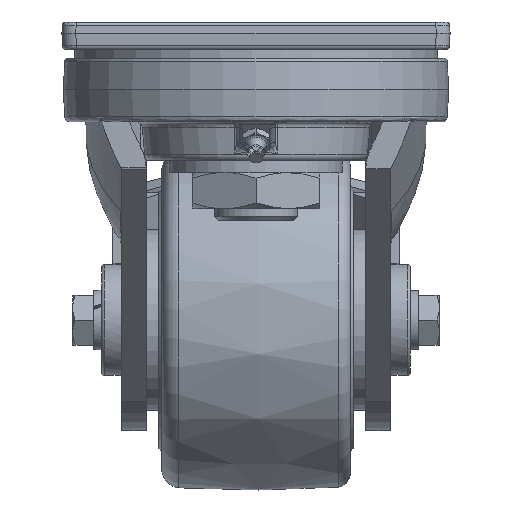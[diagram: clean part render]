
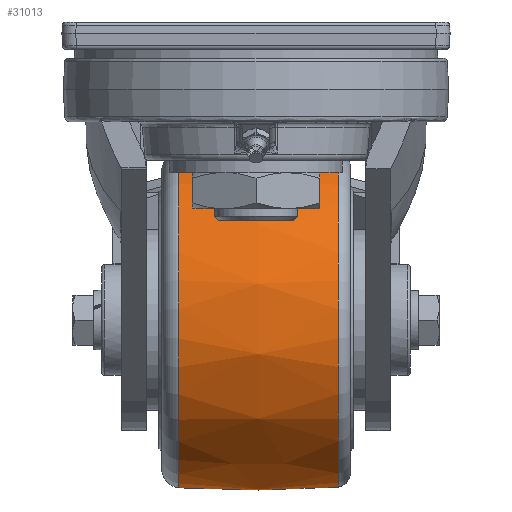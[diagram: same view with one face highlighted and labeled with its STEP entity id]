
A CAD part, left-side view. The second image highlights one B-rep face of the part: STEP entity #31013.
In plain terms, the highlighted free-form (B-spline) face has degree [2, 2] with [3, 9] control points.
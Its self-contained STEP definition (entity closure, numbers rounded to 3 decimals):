
#28=(
BOUNDED_SURFACE()
B_SPLINE_SURFACE(2,2,((#55463,#55464,#55465,#55466,#55467,#55468,#55469,
#55470,#55471),(#55472,#55473,#55474,#55475,#55476,#55477,#55478,#55479,
#55480),(#55481,#55482,#55483,#55484,#55485,#55486,#55487,#55488,#55489)),
 .UNSPECIFIED.,.F.,.T.,.F.)
B_SPLINE_SURFACE_WITH_KNOTS((3,3),(3,2,2,2,3),(-0.142,0.133),
(-3.142,-1.571,0.,1.571,3.142),
 .UNSPECIFIED.)
GEOMETRIC_REPRESENTATION_ITEM()
RATIONAL_B_SPLINE_SURFACE(((1.,0.707,1.,0.707,1.,
0.707,1.,0.707,1.),(0.991,0.7,
0.991,0.7,0.991,0.7,
0.991,0.7,0.991),(1.,0.707,
1.,0.707,1.,0.707,1.,0.707,1.)))
REPRESENTATION_ITEM('')
SURFACE()
);
#8963=FACE_OUTER_BOUND('',#10788,.T.);
#10788=EDGE_LOOP('',(#26351,#26352,#26353,#26354,#26355,#26356));
#11883=CIRCLE('',#32959,60.634);
#11884=CIRCLE('',#32960,60.634);
#11885=CIRCLE('',#32961,210.);
#11886=CIRCLE('',#32962,60.388);
#11887=CIRCLE('',#32963,60.388);
#14166=VERTEX_POINT('',#55458);
#14167=VERTEX_POINT('',#55460);
#14168=VERTEX_POINT('',#55490);
#14169=VERTEX_POINT('',#55492);
#18390=EDGE_CURVE('',#14166,#14167,#11883,.T.);
#18391=EDGE_CURVE('',#14167,#14166,#11884,.T.);
#18392=EDGE_CURVE('',#14166,#14168,#11885,.T.);
#18393=EDGE_CURVE('',#14168,#14169,#11886,.T.);
#18394=EDGE_CURVE('',#14169,#14168,#11887,.T.);
#26351=ORIENTED_EDGE('',*,*,#18391,.F.);
#26352=ORIENTED_EDGE('',*,*,#18390,.F.);
#26353=ORIENTED_EDGE('',*,*,#18392,.T.);
#26354=ORIENTED_EDGE('',*,*,#18393,.T.);
#26355=ORIENTED_EDGE('',*,*,#18394,.T.);
#26356=ORIENTED_EDGE('',*,*,#18392,.F.);
#31013=ADVANCED_FACE('',(#8963),#28,.F.);
#32959=AXIS2_PLACEMENT_3D('',#55461,#38065,#38066);
#32960=AXIS2_PLACEMENT_3D('',#55462,#38067,#38068);
#32961=AXIS2_PLACEMENT_3D('',#55491,#38069,#38070);
#32962=AXIS2_PLACEMENT_3D('',#55493,#38071,#38072);
#32963=AXIS2_PLACEMENT_3D('',#55494,#38073,#38074);
#38065=DIRECTION('center_axis',(0.,1.,0.));
#38066=DIRECTION('ref_axis',(0.555,0.,0.832));
#38067=DIRECTION('center_axis',(0.,1.,0.));
#38068=DIRECTION('ref_axis',(0.555,0.,0.832));
#38069=DIRECTION('center_axis',(-0.832,0.,
0.555));
#38070=DIRECTION('ref_axis',(-0.555,0.,-0.832));
#38071=DIRECTION('center_axis',(0.,1.,0.));
#38072=DIRECTION('ref_axis',(0.555,0.,0.832));
#38073=DIRECTION('center_axis',(0.,1.,0.));
#38074=DIRECTION('ref_axis',(0.555,0.,0.832));
#55458=CARTESIAN_POINT('',(43.854,27.931,-144.943));
#55460=CARTESIAN_POINT('',(127.943,27.931,-128.146));
#55461=CARTESIAN_POINT('Origin',(77.5,27.931,-94.5));
#55462=CARTESIAN_POINT('Origin',(77.5,27.931,-94.5));
#55463=CARTESIAN_POINT('Ctrl Pts',(43.991,-29.707,-144.738));
#55464=CARTESIAN_POINT('Ctrl Pts',(-6.247,-29.707,-111.229));
#55465=CARTESIAN_POINT('Ctrl Pts',(27.262,-29.707,-60.991));
#55466=CARTESIAN_POINT('Ctrl Pts',(60.771,-29.707,-10.753));
#55467=CARTESIAN_POINT('Ctrl Pts',(111.009,-29.707,-44.262));
#55468=CARTESIAN_POINT('Ctrl Pts',(161.247,-29.707,-77.771));
#55469=CARTESIAN_POINT('Ctrl Pts',(127.738,-29.707,-128.009));
#55470=CARTESIAN_POINT('Ctrl Pts',(94.229,-29.707,-178.247));
#55471=CARTESIAN_POINT('Ctrl Pts',(43.991,-29.707,-144.738));
#55472=CARTESIAN_POINT('Ctrl Pts',(41.707,-0.905,
-148.162));
#55473=CARTESIAN_POINT('Ctrl Pts',(-11.955,-0.905,
-112.369));
#55474=CARTESIAN_POINT('Ctrl Pts',(23.838,-0.905,
-58.707));
#55475=CARTESIAN_POINT('Ctrl Pts',(59.631,-0.905,-5.045));
#55476=CARTESIAN_POINT('Ctrl Pts',(113.293,-0.905,-40.838));
#55477=CARTESIAN_POINT('Ctrl Pts',(166.955,-0.905,
-76.631));
#55478=CARTESIAN_POINT('Ctrl Pts',(131.162,-0.905,
-130.293));
#55479=CARTESIAN_POINT('Ctrl Pts',(95.369,-0.905,
-183.955));
#55480=CARTESIAN_POINT('Ctrl Pts',(41.707,-0.905,
-148.162));
#55481=CARTESIAN_POINT('Ctrl Pts',(43.854,27.931,-144.943));
#55482=CARTESIAN_POINT('Ctrl Pts',(-6.588,27.931,-111.297));
#55483=CARTESIAN_POINT('Ctrl Pts',(27.057,27.931,-60.854));
#55484=CARTESIAN_POINT('Ctrl Pts',(60.703,27.931,-10.412));
#55485=CARTESIAN_POINT('Ctrl Pts',(111.146,27.931,-44.057));
#55486=CARTESIAN_POINT('Ctrl Pts',(161.588,27.931,-77.703));
#55487=CARTESIAN_POINT('Ctrl Pts',(127.943,27.931,-128.146));
#55488=CARTESIAN_POINT('Ctrl Pts',(94.297,27.931,-178.588));
#55489=CARTESIAN_POINT('Ctrl Pts',(43.854,27.931,-144.943));
#55490=CARTESIAN_POINT('',(43.991,-29.707,-144.738));
#55491=CARTESIAN_POINT('Origin',(159.347,0.,
28.208));
#55492=CARTESIAN_POINT('',(127.738,-29.707,-128.009));
#55493=CARTESIAN_POINT('Origin',(77.5,-29.707,-94.5));
#55494=CARTESIAN_POINT('Origin',(77.5,-29.707,-94.5));
